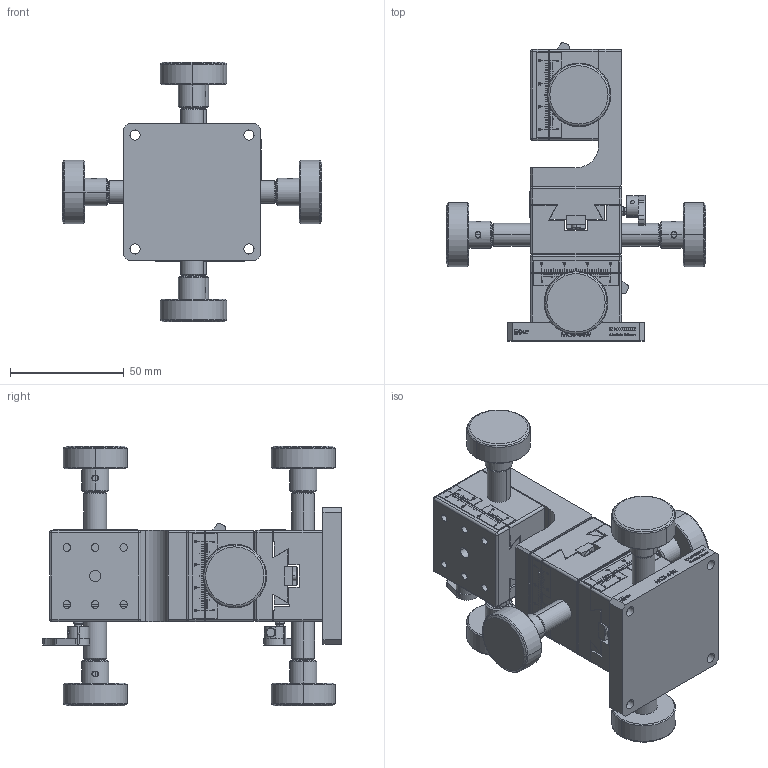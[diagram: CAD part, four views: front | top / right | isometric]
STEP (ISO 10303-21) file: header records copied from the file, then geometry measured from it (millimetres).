
FILE_DESCRIPTION (( 'STEP AP203' ), '1' );
FILE_NAME ('MCT-44W-(«¬¿ý).STEP', '2013-10-05T03:08:49', ( '' ), ( '' ), 'SwSTEP 2.0', 'SolidWorks 2013', '' );
FILE_SCHEMA (( 'CONFIG_CONTROL_DESIGN' ));
Length unit declared in the file: millimetre
Products named in the file (7): Group4^MCT-44W-(型錄); Group2^MCT-44W-(型錄); Group3^MCT-44W-(型錄); Group6^MCT-44W-(型錄); Group7^MCT-44W-(型錄); Group5^MCT-44W-(型錄); MCT-44W-(型錄)
Assembly tree (6 placements, depth 2):
  MCT-44W-(型錄)
    Group4^MCT-44W-(型錄)
    Group2^MCT-44W-(型錄)
    Group3^MCT-44W-(型錄)
    Group6^MCT-44W-(型錄)
    Group7^MCT-44W-(型錄)
    Group5^MCT-44W-(型錄)
Bounding box: 114 x 131.02 x 114 mm (x, y, z)
Volume: 254280.2 mm3; surface area: 75456.7 mm2
Topology: 6 solids, 6 shells, 2514 faces, 6629 edges, 4269 vertices
Faces by surface type: plane 1654, bspline 311, cylinder 293, cone 198, torus 34, sphere 24
Entity records: 99443 total; most frequent: CARTESIAN_POINT 38454, ORIENTED_EDGE 13208, DIRECTION 11206, EDGE_CURVE 6604, VECTOR 4770, LINE 4770, VERTEX_POINT 4268, AXIS2_PLACEMENT_3D 3218
